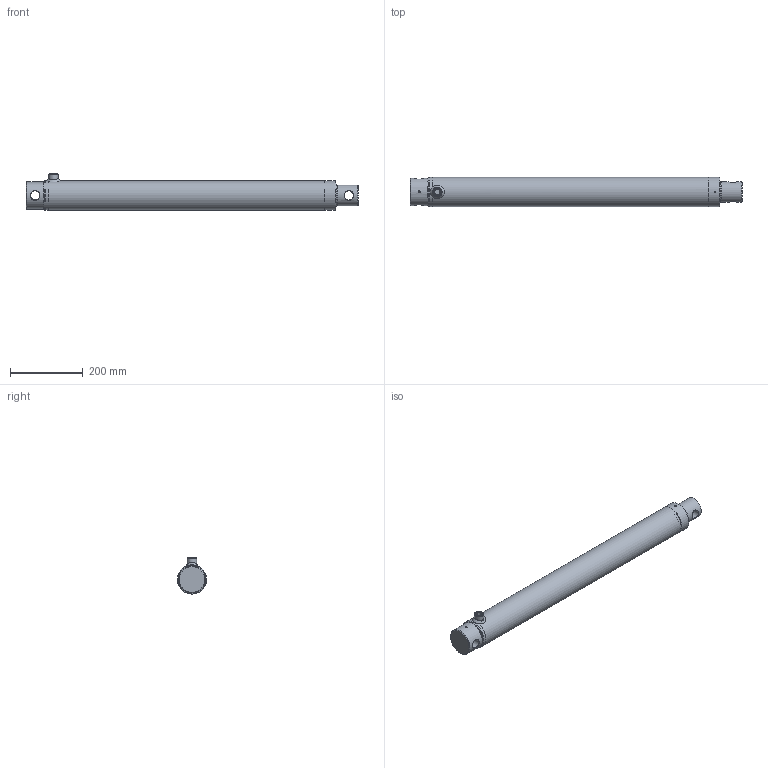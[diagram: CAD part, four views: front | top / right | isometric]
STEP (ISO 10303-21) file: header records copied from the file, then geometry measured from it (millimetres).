
FILE_DESCRIPTION( ( 'Unknown' ), '1' );
FILE_NAME( 'E:/LIBRERIA_3d/CILINDRI/HFRT/HFRT560700.stp', 'Unknown', ( 'Unknown' ), ( 'Unknown' ), 'PSStep 17.0.49', 'Unknown', ' ' );
FILE_SCHEMA( ( 'AUTOMOTIVE_DESIGN { 1 0 10303 214 1 1 1 1 }' ) );
Length unit declared in the file: millimetre
Products named in the file (14): STFT070080700; MAT_PRIMA_TUBO_FT08007000-oa2; CGHFRT0060; Assem1; CFHRT08070; CBS0600000; CAT0600055; Saldatura con preparazione 1-oa0; Saldatura d'angolo 1-oa1; APG0600000; SBFT600700700
Assembly tree (11 placements, depth 3):
  Assem1
    CFHRT08070
    CBS0600000
    CAT0600055
    Saldatura con preparazione 1-oa0
    Saldatura con preparazione 1-oa0
    APG0600000
    SBFT600700700
    CGHFRT0060
      CGHFRT0060
    STFT070080700
      MAT_PRIMA_TUBO_FT08007000-oa2
  Saldatura d'angolo 1-oa1
  Saldatura d'angolo 1-oa1
Bounding box: 910 x 80 x 99 mm (x, y, z)
Volume: 3572632.6 mm3; surface area: 611251.3 mm2
Topology: 11 solids, 11 shells, 116 faces, 238 edges, 147 vertices
Faces by surface type: cylinder 41, plane 26, cone 23, torus 20, bspline 6
Full cylindrical faces by diameter (mm): 5 x2, 5.5 x1, 7 x1, 14.95 x1, 16 x1, 16.6 x1, 22 x1, 25.25 x2, 26 x3, 52 x1, 55 x1, 57 x1, 60 x4, 63 x1, 68.6 x1, 69.9 x1, 70 x2, 71.5 x1, 72 x3, 72.5 x1, 74 x1, 75 x1, 75.9 x1, 76 x1, 80 x5
Entity records: 5548 total; most frequent: CARTESIAN_POINT 2519, DIRECTION 444, EDGE_LOOP 232, ORIENTED_EDGE 232, AXIS2_PLACEMENT_3D 222, FACE_OUTER_BOUND 181, VERTEX_POINT 119, ADVANCED_FACE 116
